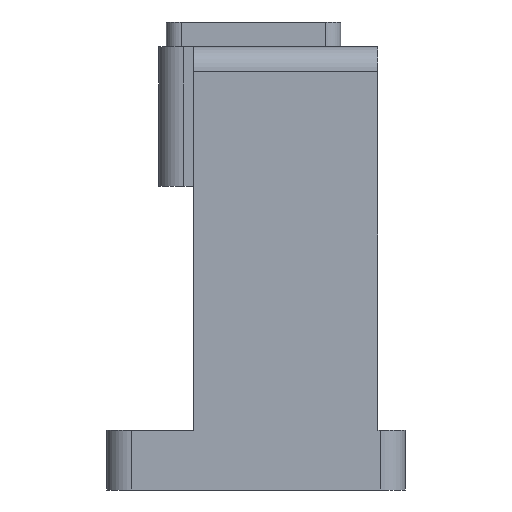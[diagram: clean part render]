
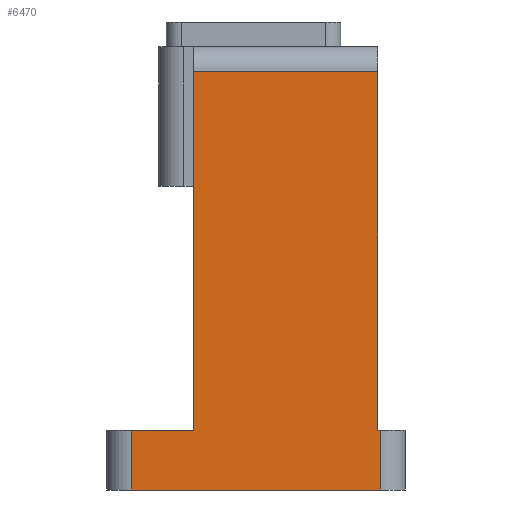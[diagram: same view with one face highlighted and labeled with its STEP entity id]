
A CAD part, left-side view. The second image highlights one B-rep face of the part: STEP entity #6470.
In plain terms, the highlighted planar face has unit normal (-1, 0, 0).
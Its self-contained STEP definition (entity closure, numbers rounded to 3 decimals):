
#90 = CARTESIAN_POINT ( 'NONE',  ( 0., 37., -5. ) ) ;
#169 = LINE ( 'NONE', #7103, #5392 ) ;
#237 = CARTESIAN_POINT ( 'NONE',  ( 0., -5.5, -89. ) ) ;
#323 = CARTESIAN_POINT ( 'NONE',  ( 0., -5.5, -77. ) ) ;
#626 = ORIENTED_EDGE ( 'NONE', *, *, #3095, .T. ) ;
#682 = CARTESIAN_POINT ( 'NONE',  ( 0., 49.5, -77. ) ) ;
#933 = ORIENTED_EDGE ( 'NONE', *, *, #4643, .F. ) ;
#948 = CARTESIAN_POINT ( 'NONE',  ( 0., 54.5, -77. ) ) ;
#1061 = CARTESIAN_POINT ( 'NONE',  ( 0., 0., -5. ) ) ;
#1243 = ORIENTED_EDGE ( 'NONE', *, *, #3191, .T. ) ;
#1345 = CARTESIAN_POINT ( 'NONE',  ( 0., 49.5, -89. ) ) ;
#1356 = EDGE_CURVE ( 'NONE', #5629, #8426, #6335, .T. ) ;
#1413 = VECTOR ( 'NONE', #6557, 1000. ) ;
#1499 = DIRECTION ( 'NONE',  ( 0., 0., 1. ) ) ;
#1697 = LINE ( 'NONE', #948, #9424 ) ;
#1808 = DIRECTION ( 'NONE',  ( 0., -1., 0. ) ) ;
#1860 = DIRECTION ( 'NONE',  ( 0., 1., 0. ) ) ;
#2019 = CARTESIAN_POINT ( 'NONE',  ( 0., 0., -28. ) ) ;
#2664 = LINE ( 'NONE', #237, #10733 ) ;
#2681 = LINE ( 'NONE', #3727, #8890 ) ;
#3068 = DIRECTION ( 'NONE',  ( 0., -1., 0. ) ) ;
#3095 = EDGE_CURVE ( 'NONE', #9564, #7572, #169, .T. ) ;
#3191 = EDGE_CURVE ( 'NONE', #5571, #5629, #4804, .T. ) ;
#3727 = CARTESIAN_POINT ( 'NONE',  ( 0., -0.5, -28. ) ) ;
#3976 = VERTEX_POINT ( 'NONE', #4381 ) ;
#4120 = CARTESIAN_POINT ( 'NONE',  ( 0., 37., -28. ) ) ;
#4381 = CARTESIAN_POINT ( 'NONE',  ( 0., 37., -77. ) ) ;
#4545 = EDGE_LOOP ( 'NONE', ( #1243, #8529, #933, #10989, #626, #5132, #10227, #7019 ) ) ;
#4643 = EDGE_CURVE ( 'NONE', #3976, #8426, #9504, .T. ) ;
#4804 = LINE ( 'NONE', #2019, #9146 ) ;
#5132 = ORIENTED_EDGE ( 'NONE', *, *, #9245, .F. ) ;
#5392 = VECTOR ( 'NONE', #10738, 1000. ) ;
#5555 = EDGE_CURVE ( 'NONE', #9564, #3976, #1697, .T. ) ;
#5571 = VERTEX_POINT ( 'NONE', #10814 ) ;
#5629 = VERTEX_POINT ( 'NONE', #1061 ) ;
#6335 = LINE ( 'NONE', #90, #9656 ) ;
#6470 = ADVANCED_FACE ( 'NONE', ( #9392 ), #7422, .T. ) ;
#6557 = DIRECTION ( 'NONE',  ( 0., -1., 0. ) ) ;
#6568 = VERTEX_POINT ( 'NONE', #9278 ) ;
#7019 = ORIENTED_EDGE ( 'NONE', *, *, #10068, .F. ) ;
#7086 = CARTESIAN_POINT ( 'NONE',  ( 0., -0.5, -77. ) ) ;
#7103 = CARTESIAN_POINT ( 'NONE',  ( 0., 49.5, -28. ) ) ;
#7242 = DIRECTION ( 'NONE',  ( 0., 0., 1. ) ) ;
#7422 = PLANE ( 'NONE',  #8451 ) ;
#7535 = LINE ( 'NONE', #323, #1413 ) ;
#7572 = VERTEX_POINT ( 'NONE', #1345 ) ;
#8189 = DIRECTION ( 'NONE',  ( 0., 1., 0. ) ) ;
#8422 = DIRECTION ( 'NONE',  ( 0., 0., 1. ) ) ;
#8426 = VERTEX_POINT ( 'NONE', #9365 ) ;
#8451 = AXIS2_PLACEMENT_3D ( 'NONE', #11145, #9223, #3068 ) ;
#8529 = ORIENTED_EDGE ( 'NONE', *, *, #1356, .T. ) ;
#8889 = EDGE_CURVE ( 'NONE', #6568, #9824, #2681, .T. ) ;
#8890 = VECTOR ( 'NONE', #7242, 1000. ) ;
#9146 = VECTOR ( 'NONE', #8422, 1000. ) ;
#9223 = DIRECTION ( 'NONE',  ( -1., 0., 0. ) ) ;
#9245 = EDGE_CURVE ( 'NONE', #6568, #7572, #2664, .T. ) ;
#9278 = CARTESIAN_POINT ( 'NONE',  ( 0., -0.5, -89. ) ) ;
#9365 = CARTESIAN_POINT ( 'NONE',  ( 0., 37., -5. ) ) ;
#9392 = FACE_OUTER_BOUND ( 'NONE', #4545, .T. ) ;
#9424 = VECTOR ( 'NONE', #1808, 1000. ) ;
#9504 = LINE ( 'NONE', #4120, #10114 ) ;
#9564 = VERTEX_POINT ( 'NONE', #682 ) ;
#9656 = VECTOR ( 'NONE', #8189, 1000. ) ;
#9824 = VERTEX_POINT ( 'NONE', #7086 ) ;
#10068 = EDGE_CURVE ( 'NONE', #5571, #9824, #7535, .T. ) ;
#10114 = VECTOR ( 'NONE', #1499, 1000. ) ;
#10227 = ORIENTED_EDGE ( 'NONE', *, *, #8889, .T. ) ;
#10733 = VECTOR ( 'NONE', #1860, 1000. ) ;
#10738 = DIRECTION ( 'NONE',  ( 0., 0., -1. ) ) ;
#10814 = CARTESIAN_POINT ( 'NONE',  ( 0., 0., -77. ) ) ;
#10989 = ORIENTED_EDGE ( 'NONE', *, *, #5555, .F. ) ;
#11145 = CARTESIAN_POINT ( 'NONE',  ( 0., 0., -28. ) ) ;
